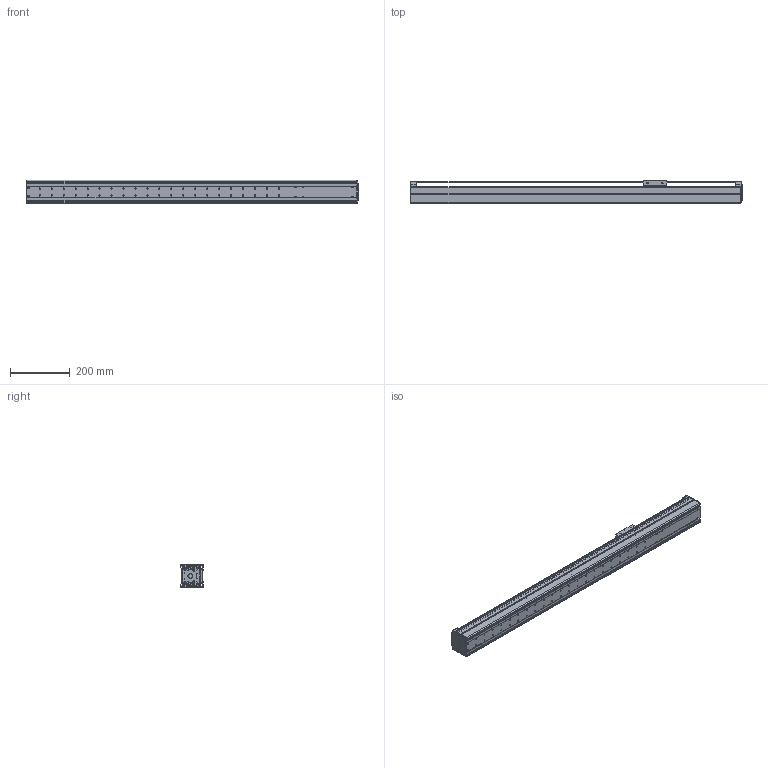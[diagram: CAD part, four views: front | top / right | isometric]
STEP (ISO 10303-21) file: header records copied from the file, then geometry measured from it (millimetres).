
FILE_DESCRIPTION((''),'2;1');
FILE_NAME('BE10E-ST-S_B-75_IGS_PRT','2017-06-17T',(' '),(''),'PRO/ENGINEER BY PARAMETRIC TECHNOLOGY CORPORATION, 2015030','PRO/ENGINEER BY PARAMETRIC TECHNOLOGY CORPORATION, 2015030','');
FILE_SCHEMA(('CONFIG_CONTROL_DESIGN'));
Length unit declared in the file: millimetre
Products named in the file (1): BE10E-ST-S_B-75_IGS_PRT
Bounding box: 1110 x 75 x 78 mm (x, y, z)
Volume: 1244919.7 mm3; surface area: 833996.1 mm2
Topology: 3 solids, 81 shells, 1215 faces, 3255 edges, 2124 vertices
Faces by surface type: cylinder 622, plane 440, torus 64, sphere 42, cone 38, bspline 9
Entity records: 39425 total; most frequent: CARTESIAN_POINT 8177, DIRECTION 6798, ORIENTED_EDGE 6168, EDGE_CURVE 3235, AXIS2_PLACEMENT_3D 2588, VERTEX_POINT 2124, VECTOR 1622, LINE 1622
